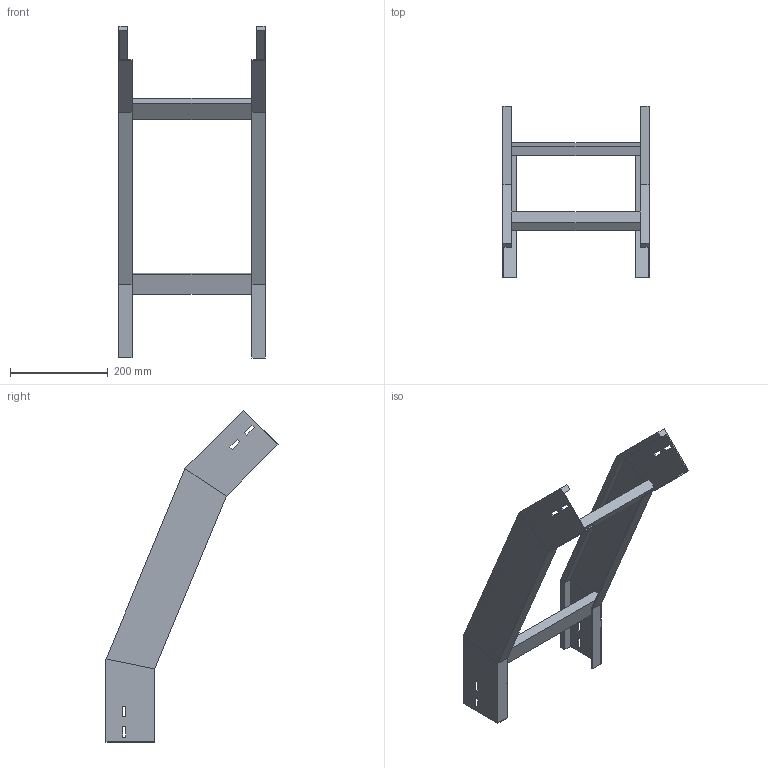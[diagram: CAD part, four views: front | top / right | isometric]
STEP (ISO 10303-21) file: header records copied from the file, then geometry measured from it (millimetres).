
FILE_DESCRIPTION (( 'STEP AP214' ), '1' );
FILE_NAME ('34B5D300.step', '2025-02-21T14:50:57', ( '' ), ( '' ), 'SwSTEP 2.0', 'SolidWorks 2023', '' );
FILE_SCHEMA (( 'AUTOMOTIVE_DESIGN' ));
Length unit declared in the file: millimetre
Products named in the file (3): 34B5D300; TRAVERSINO_300; LONGH.DISCESA_45°_H100_R500
Assembly tree (5 placements, depth 2):
  34B5D300
    LONGH.DISCESA_45°_H100_R500  x2
    TRAVERSINO_300  x3
Bounding box: 300 x 352.63 x 680.62 mm (x, y, z)
Volume: 1365300.3 mm3; surface area: 524313.4 mm2
Topology: 5 solids, 5 shells, 102 faces, 244 edges, 152 vertices
Faces by surface type: plane 102
Entity records: 1480 total; most frequent: CARTESIAN_POINT 244, ORIENTED_EDGE 232, DIRECTION 228, EDGE_CURVE 116, LINE 116, VECTOR 116, VERTEX_POINT 72, EDGE_LOOP 56
